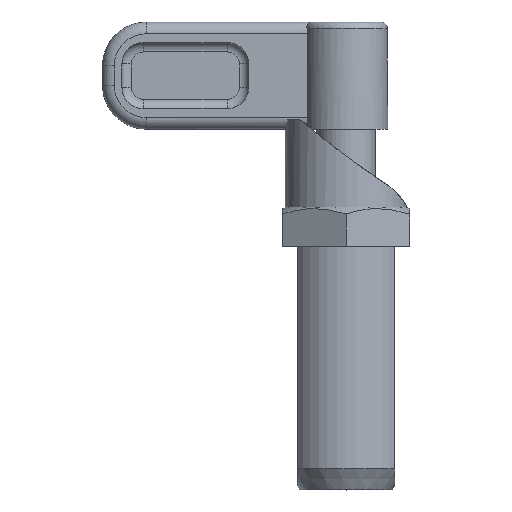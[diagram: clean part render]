
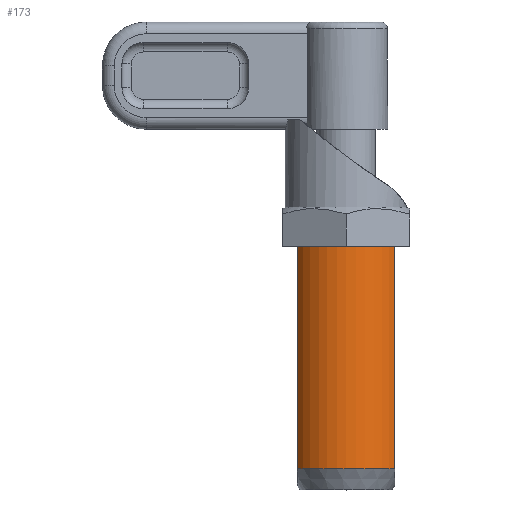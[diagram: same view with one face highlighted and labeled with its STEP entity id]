
A CAD part, top view. The second image highlights one B-rep face of the part: STEP entity #173.
In plain terms, the highlighted cylindrical face has radius 6 mm (diameter 12 mm), a partial arc.
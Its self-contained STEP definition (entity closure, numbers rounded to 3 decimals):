
#173 = ADVANCED_FACE( '', ( #254 ), #255, .T. );
#254 = FACE_OUTER_BOUND( '', #422, .T. );
#255 = CYLINDRICAL_SURFACE( '', #423, 6. );
#422 = EDGE_LOOP( '', ( #616, #617, #618, #619 ) );
#423 = AXIS2_PLACEMENT_3D( '', #620, #621, #622 );
#616 = ORIENTED_EDGE( '', *, *, #1145, .F. );
#617 = ORIENTED_EDGE( '', *, *, #1146, .T. );
#618 = ORIENTED_EDGE( '', *, *, #1147, .T. );
#619 = ORIENTED_EDGE( '', *, *, #1148, .T. );
#620 = CARTESIAN_POINT( '', ( 0., 0., 0. ) );
#621 = DIRECTION( '', ( 0., 1., 0. ) );
#622 = DIRECTION( '', ( 0., 0., -1. ) );
#1145 = EDGE_CURVE( '', #1324, #1325, #1326, .T. );
#1146 = EDGE_CURVE( '', #1324, #1327, #1328, .F. );
#1147 = EDGE_CURVE( '', #1327, #1329, #1330, .T. );
#1148 = EDGE_CURVE( '', #1329, #1325, #1331, .T. );
#1324 = VERTEX_POINT( '', #1799 );
#1325 = VERTEX_POINT( '', #1800 );
#1326 = CIRCLE( '', #1801, 6. );
#1327 = VERTEX_POINT( '', #1802 );
#1328 = LINE( '', #1803, #1804 );
#1329 = VERTEX_POINT( '', #1805 );
#1330 = CIRCLE( '', #1806, 6. );
#1331 = LINE( '', #1807, #1808 );
#1799 = CARTESIAN_POINT( '', ( 5., 2.17, 3.317 ) );
#1800 = CARTESIAN_POINT( '', ( -5., 2.17, 3.317 ) );
#1801 = AXIS2_PLACEMENT_3D( '', #2255, #2256, #2257 );
#1802 = CARTESIAN_POINT( '', ( 5., 25., 3.317 ) );
#1803 = CARTESIAN_POINT( '', ( 5., 0., 3.317 ) );
#1804 = VECTOR( '', #2258, 1000. );
#1805 = CARTESIAN_POINT( '', ( -5., 25., 3.317 ) );
#1806 = AXIS2_PLACEMENT_3D( '', #2259, #2260, #2261 );
#1807 = CARTESIAN_POINT( '', ( -5., 0., 3.317 ) );
#1808 = VECTOR( '', #2262, 1000. );
#2255 = CARTESIAN_POINT( '', ( 0., 2.17, 0. ) );
#2256 = DIRECTION( '', ( 0., -1., 0. ) );
#2257 = DIRECTION( '', ( 0., 0., -1. ) );
#2258 = DIRECTION( '', ( 0., -1., 0. ) );
#2259 = CARTESIAN_POINT( '', ( 0., 25., 0. ) );
#2260 = DIRECTION( '', ( 0., -1., 0. ) );
#2261 = DIRECTION( '', ( 0., 0., -1. ) );
#2262 = DIRECTION( '', ( 0., -1., 0. ) );
